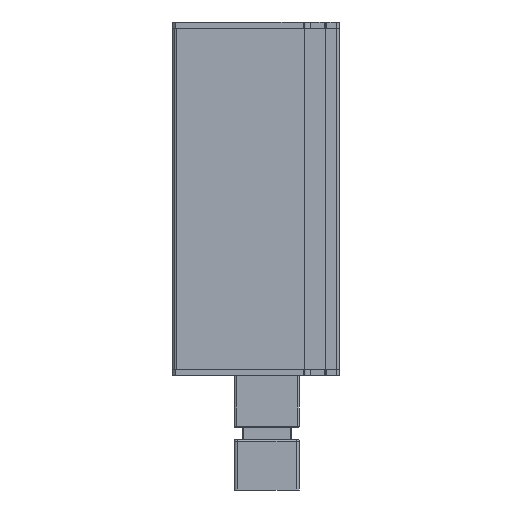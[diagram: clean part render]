
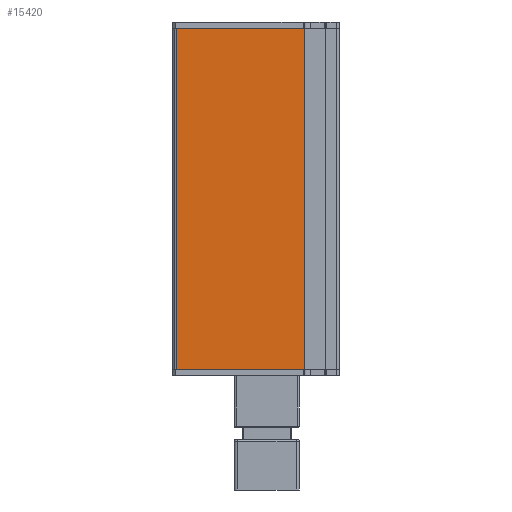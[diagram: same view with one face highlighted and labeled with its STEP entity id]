
A CAD part, left-side view. The second image highlights one B-rep face of the part: STEP entity #15420.
In plain terms, the highlighted planar face has unit normal (-1, 0, 0).
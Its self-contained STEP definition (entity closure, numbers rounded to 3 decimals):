
#152 = ORIENTED_EDGE ( 'NONE', *, *, #14213, .F. ) ;
#1111 = EDGE_LOOP ( 'NONE', ( #1862, #152, #20943, #19143 ) ) ;
#1862 = ORIENTED_EDGE ( 'NONE', *, *, #14175, .T. ) ;
#2611 = CARTESIAN_POINT ( 'NONE',  ( -14., 5.7, 27.5 ) ) ;
#2976 = VECTOR ( 'NONE', #13031, 1000. ) ;
#2984 = DIRECTION ( 'NONE',  ( 1., 0., 0. ) ) ;
#3157 = CARTESIAN_POINT ( 'NONE',  ( -14., 26.376, 27.5 ) ) ;
#3481 = VECTOR ( 'NONE', #10042, 1000. ) ;
#3912 = EDGE_CURVE ( 'NONE', #15942, #20021, #14588, .T. ) ;
#4107 = EDGE_CURVE ( 'NONE', #15942, #15837, #13506, .T. ) ;
#6130 = VECTOR ( 'NONE', #21146, 1000. ) ;
#6213 = PLANE ( 'NONE',  #12533 ) ;
#6430 = CARTESIAN_POINT ( 'NONE',  ( -14., 26.376, 27.5 ) ) ;
#7654 = FACE_OUTER_BOUND ( 'NONE', #1111, .T. ) ;
#8358 = CARTESIAN_POINT ( 'NONE',  ( -14., 26.376, 27.5 ) ) ;
#9480 = CARTESIAN_POINT ( 'NONE',  ( -14., 26.376, -27.5 ) ) ;
#10042 = DIRECTION ( 'NONE',  ( 0., -1., 0. ) ) ;
#10886 = LINE ( 'NONE', #2611, #20385 ) ;
#12533 = AXIS2_PLACEMENT_3D ( 'NONE', #6430, #2984, #14775 ) ;
#12828 = CARTESIAN_POINT ( 'NONE',  ( -14., 5.7, 27.5 ) ) ;
#12980 = CARTESIAN_POINT ( 'NONE',  ( -14., 26.376, -27.5 ) ) ;
#13031 = DIRECTION ( 'NONE',  ( 0., 0., -1. ) ) ;
#13506 = LINE ( 'NONE', #8358, #3481 ) ;
#14175 = EDGE_CURVE ( 'NONE', #20021, #18825, #20099, .T. ) ;
#14213 = EDGE_CURVE ( 'NONE', #15837, #18825, #10886, .T. ) ;
#14588 = LINE ( 'NONE', #3157, #2976 ) ;
#14775 = DIRECTION ( 'NONE',  ( 0., 0., -1. ) ) ;
#15420 = ADVANCED_FACE ( 'NONE', ( #7654 ), #6213, .F. ) ;
#15837 = VERTEX_POINT ( 'NONE', #12828 ) ;
#15942 = VERTEX_POINT ( 'NONE', #18059 ) ;
#18059 = CARTESIAN_POINT ( 'NONE',  ( -14., 26.376, 27.5 ) ) ;
#18825 = VERTEX_POINT ( 'NONE', #20094 ) ;
#19143 = ORIENTED_EDGE ( 'NONE', *, *, #3912, .T. ) ;
#19470 = DIRECTION ( 'NONE',  ( 0., 0., -1. ) ) ;
#20021 = VERTEX_POINT ( 'NONE', #9480 ) ;
#20094 = CARTESIAN_POINT ( 'NONE',  ( -14., 5.7, -27.5 ) ) ;
#20099 = LINE ( 'NONE', #12980, #6130 ) ;
#20385 = VECTOR ( 'NONE', #19470, 1000. ) ;
#20943 = ORIENTED_EDGE ( 'NONE', *, *, #4107, .F. ) ;
#21146 = DIRECTION ( 'NONE',  ( 0., -1., 0. ) ) ;
